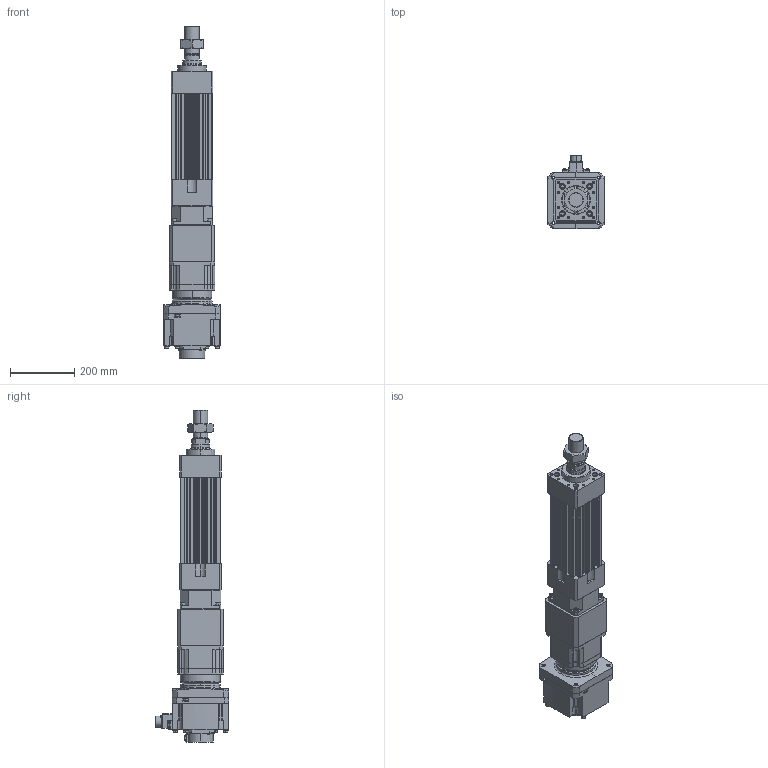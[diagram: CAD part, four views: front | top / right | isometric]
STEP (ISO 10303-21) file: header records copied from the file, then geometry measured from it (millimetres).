
FILE_DESCRIPTION (( 'STEP AP203' ), '1' );
FILE_NAME ('HES130FS(HS)-S050-W020G00-M.STEP', '2023-01-30T11:23:42', ( 'tms' ), ( '' ), 'SwSTEP 2.0', 'SolidWorks 2013', '' );
FILE_SCHEMA (( 'CONFIG_CONTROL_DESIGN' ));
Length unit declared in the file: millimetre
Products named in the file (9): P1301500001; AB142-003[HG-SR352]; HES130 ROD M ST050; P0403500801; HES130FS(HS)-S050-W020G00-M; M45X1.5P; AB1421; HG-SR202; HES130-S050-G142
Assembly tree (8 placements, depth 3):
  HES130FS(HS)-S050-W020G00-M
    HES130-S050-G142
    HES130 ROD M ST050
    M45X1.5P
    AB142-003[HG-SR352]
      AB1421
      P1301500001
      P0403500801
    HG-SR202
Bounding box: 176 x 228.85 x 1037.5 mm (x, y, z)
Volume: 9327002.6 mm3; surface area: 1133136.5 mm2
Topology: 4 solids, 22 shells, 1527 faces, 3928 edges, 2530 vertices
Faces by surface type: cylinder 683, plane 580, cone 182, bspline 76, torus 6
Entity records: 55214 total; most frequent: CARTESIAN_POINT 16756, DIRECTION 8052, ORIENTED_EDGE 7718, EDGE_CURVE 3881, AXIS2_PLACEMENT_3D 3043, VERTEX_POINT 2530, VECTOR 1966, LINE 1966
